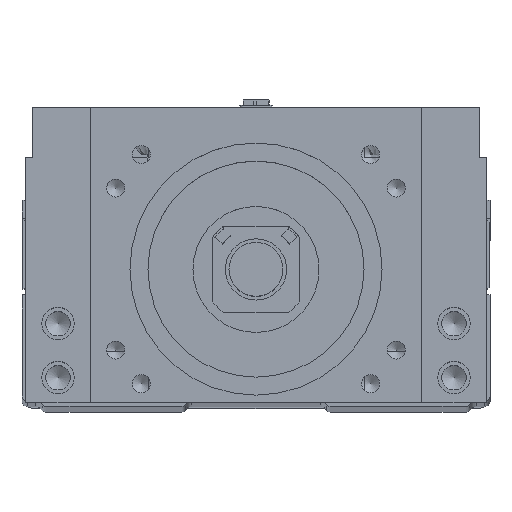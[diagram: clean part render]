
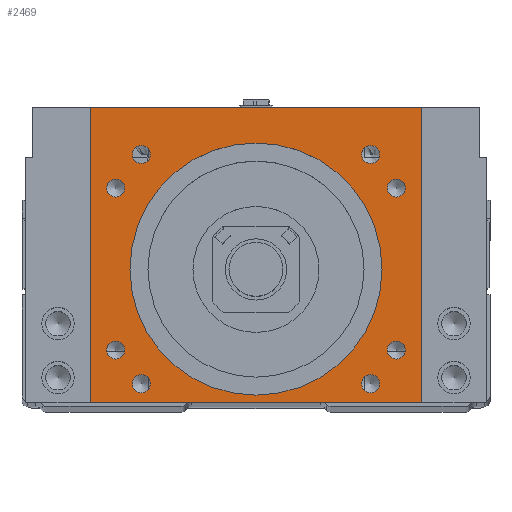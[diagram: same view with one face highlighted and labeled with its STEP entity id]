
A CAD part, top view. The second image highlights one B-rep face of the part: STEP entity #2469.
In plain terms, the highlighted planar face has unit normal (0, 0, 1).
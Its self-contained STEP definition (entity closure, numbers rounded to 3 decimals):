
#1701=FACE_BOUND('',#4486,.T.);
#1702=FACE_BOUND('',#4487,.T.);
#1703=FACE_BOUND('',#4488,.T.);
#1704=FACE_BOUND('',#4489,.T.);
#1705=FACE_BOUND('',#4490,.T.);
#1706=FACE_BOUND('',#4491,.T.);
#1707=FACE_BOUND('',#4492,.T.);
#1708=FACE_BOUND('',#4493,.T.);
#1709=FACE_BOUND('',#4494,.T.);
#1710=FACE_BOUND('',#4495,.T.);
#2469=ADVANCED_FACE('',(#1701,#1702,#1703,#1704,#1705,#1706,#1707,#1708,
#1709,#1710),#3251,.T.);
#3251=PLANE('',#16020);
#4486=EDGE_LOOP('',(#7036,#7037,#7038,#7039));
#4487=EDGE_LOOP('',(#7040));
#4488=EDGE_LOOP('',(#7041));
#4489=EDGE_LOOP('',(#7042));
#4490=EDGE_LOOP('',(#7043));
#4491=EDGE_LOOP('',(#7044));
#4492=EDGE_LOOP('',(#7045));
#4493=EDGE_LOOP('',(#7046));
#4494=EDGE_LOOP('',(#7047));
#4495=EDGE_LOOP('',(#7048));
#5552=CIRCLE('',#16010,35.015);
#5553=CIRCLE('',#16012,2.5);
#5554=CIRCLE('',#16013,2.5);
#5555=CIRCLE('',#16014,2.5);
#5556=CIRCLE('',#16015,2.5);
#5557=CIRCLE('',#16016,2.5);
#5558=CIRCLE('',#16017,2.5);
#5559=CIRCLE('',#16018,2.5);
#5560=CIRCLE('',#16019,2.5);
#7036=ORIENTED_EDGE('',*,*,#11803,.T.);
#7037=ORIENTED_EDGE('',*,*,#11791,.T.);
#7038=ORIENTED_EDGE('',*,*,#11798,.T.);
#7039=ORIENTED_EDGE('',*,*,#11808,.T.);
#7040=ORIENTED_EDGE('',*,*,#11816,.F.);
#7041=ORIENTED_EDGE('',*,*,#11817,.T.);
#7042=ORIENTED_EDGE('',*,*,#11818,.T.);
#7043=ORIENTED_EDGE('',*,*,#11819,.F.);
#7044=ORIENTED_EDGE('',*,*,#11815,.F.);
#7045=ORIENTED_EDGE('',*,*,#11820,.T.);
#7046=ORIENTED_EDGE('',*,*,#11821,.T.);
#7047=ORIENTED_EDGE('',*,*,#11822,.T.);
#7048=ORIENTED_EDGE('',*,*,#11823,.T.);
#10223=VERTEX_POINT('',#22357);
#10224=VERTEX_POINT('',#22359);
#10228=VERTEX_POINT('',#22370);
#10230=VERTEX_POINT('',#22381);
#10236=VERTEX_POINT('',#22405);
#10237=VERTEX_POINT('',#22408);
#10238=VERTEX_POINT('',#22410);
#10239=VERTEX_POINT('',#22412);
#10240=VERTEX_POINT('',#22414);
#10241=VERTEX_POINT('',#22416);
#10242=VERTEX_POINT('',#22418);
#10243=VERTEX_POINT('',#22420);
#10244=VERTEX_POINT('',#22422);
#11791=EDGE_CURVE('',#10224,#10223,#13538,.T.);
#11798=EDGE_CURVE('',#10223,#10228,#13543,.T.);
#11803=EDGE_CURVE('',#10230,#10224,#13548,.T.);
#11808=EDGE_CURVE('',#10228,#10230,#13553,.T.);
#11815=EDGE_CURVE('',#10236,#10236,#5552,.T.);
#11816=EDGE_CURVE('',#10237,#10237,#5553,.T.);
#11817=EDGE_CURVE('',#10238,#10238,#5554,.T.);
#11818=EDGE_CURVE('',#10239,#10239,#5555,.T.);
#11819=EDGE_CURVE('',#10240,#10240,#5556,.T.);
#11820=EDGE_CURVE('',#10241,#10241,#5557,.T.);
#11821=EDGE_CURVE('',#10242,#10242,#5558,.T.);
#11822=EDGE_CURVE('',#10243,#10243,#5559,.T.);
#11823=EDGE_CURVE('',#10244,#10244,#5560,.T.);
#13538=LINE('',#22358,#14753);
#13543=LINE('',#22372,#14758);
#13548=LINE('',#22380,#14763);
#13553=LINE('',#22389,#14768);
#14753=VECTOR('',#18120,1.);
#14758=VECTOR('',#18131,1.);
#14763=VECTOR('',#18142,1.);
#14768=VECTOR('',#18149,1.);
#16010=AXIS2_PLACEMENT_3D('',#22404,#18168,#18169);
#16012=AXIS2_PLACEMENT_3D('',#22407,#18172,#18173);
#16013=AXIS2_PLACEMENT_3D('',#22409,#18174,#18175);
#16014=AXIS2_PLACEMENT_3D('',#22411,#18176,#18177);
#16015=AXIS2_PLACEMENT_3D('',#22413,#18178,#18179);
#16016=AXIS2_PLACEMENT_3D('',#22415,#18180,#18181);
#16017=AXIS2_PLACEMENT_3D('',#22417,#18182,#18183);
#16018=AXIS2_PLACEMENT_3D('',#22419,#18184,#18185);
#16019=AXIS2_PLACEMENT_3D('',#22421,#18186,#18187);
#16020=AXIS2_PLACEMENT_3D('',#22423,#18188,#18189);
#18120=DIRECTION('',(-1.,0.,0.));
#18131=DIRECTION('',(0.,-1.,0.));
#18142=DIRECTION('',(0.,1.,0.));
#18149=DIRECTION('',(1.,0.,0.));
#18168=DIRECTION('',(0.,0.,1.));
#18169=DIRECTION('',(1.,0.,0.));
#18172=DIRECTION('',(0.,0.,1.));
#18173=DIRECTION('',(-1.,0.,0.));
#18174=DIRECTION('',(0.,0.,-1.));
#18175=DIRECTION('',(1.,0.,0.));
#18176=DIRECTION('',(0.,0.,-1.));
#18177=DIRECTION('',(1.,0.,0.));
#18178=DIRECTION('',(0.,0.,1.));
#18179=DIRECTION('',(-1.,0.,0.));
#18180=DIRECTION('',(0.,0.,-1.));
#18181=DIRECTION('',(1.,0.,0.));
#18182=DIRECTION('',(0.,0.,-1.));
#18183=DIRECTION('',(1.,0.,0.));
#18184=DIRECTION('',(0.,0.,-1.));
#18185=DIRECTION('',(1.,0.,0.));
#18186=DIRECTION('',(0.,0.,-1.));
#18187=DIRECTION('',(1.,0.,0.));
#18188=DIRECTION('',(0.,0.,1.));
#18189=DIRECTION('',(-1.,0.,0.));
#22357=CARTESIAN_POINT('',(-46.,83.,100.));
#22358=CARTESIAN_POINT('',(0.,83.,100.));
#22359=CARTESIAN_POINT('',(46.,83.,100.));
#22370=CARTESIAN_POINT('',(-46.,1.,100.));
#22372=CARTESIAN_POINT('',(-46.,38.,100.));
#22380=CARTESIAN_POINT('',(46.,38.,100.));
#22381=CARTESIAN_POINT('',(46.,1.,100.));
#22389=CARTESIAN_POINT('',(0.,1.,100.));
#22404=CARTESIAN_POINT('',(0.,38.,100.));
#22405=CARTESIAN_POINT('',(35.015,38.,100.));
#22407=CARTESIAN_POINT('',(-38.971,15.5,100.));
#22408=CARTESIAN_POINT('',(-41.471,15.5,100.));
#22409=CARTESIAN_POINT('',(38.971,60.5,100.));
#22410=CARTESIAN_POINT('',(41.471,60.5,100.));
#22411=CARTESIAN_POINT('',(38.971,15.5,100.));
#22412=CARTESIAN_POINT('',(41.471,15.5,100.));
#22413=CARTESIAN_POINT('',(-38.971,60.5,100.));
#22414=CARTESIAN_POINT('',(-41.471,60.5,100.));
#22415=CARTESIAN_POINT('',(-31.82,69.82,100.));
#22416=CARTESIAN_POINT('',(-29.32,69.82,100.));
#22417=CARTESIAN_POINT('',(-31.82,6.18,100.));
#22418=CARTESIAN_POINT('',(-29.32,6.18,100.));
#22419=CARTESIAN_POINT('',(31.82,6.18,100.));
#22420=CARTESIAN_POINT('',(34.32,6.18,100.));
#22421=CARTESIAN_POINT('',(31.82,69.82,100.));
#22422=CARTESIAN_POINT('',(34.32,69.82,100.));
#22423=CARTESIAN_POINT('',(0.,38.,100.));
